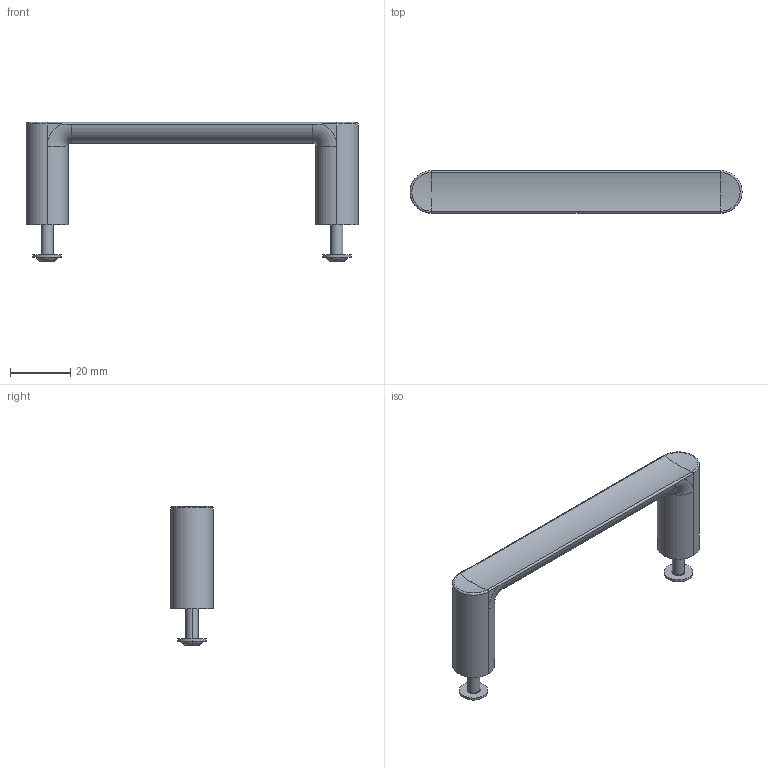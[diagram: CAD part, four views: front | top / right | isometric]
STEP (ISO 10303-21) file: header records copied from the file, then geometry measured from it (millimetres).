
FILE_DESCRIPTION((''),'2;1');
FILE_NAME('48740--00_SUB01_ASM','2026-10-13T14:31:39',('simi1'),(''),'CREO PARAMETRIC BY PTC INC, 2022244','CREO PARAMETRIC BY PTC INC, 2022244','');
FILE_SCHEMA(('CONFIG_CONTROL_DESIGN'));
Length unit declared in the file: millimetre
Products named in the file (3): 46755--; 4674900; 48740--00_SUB01_ASM
Assembly tree (3 placements, depth 2):
  48740--00_SUB01_ASM
    46755--
    4674900  x2
Bounding box: 110 x 14 x 46.06 mm (x, y, z)
Volume: 16464.5 mm3; surface area: 7901.4 mm2
Topology: 3 solids, 3 shells, 108 faces, 272 edges, 168 vertices
Faces by surface type: cylinder 44, cone 28, plane 14, torus 12, bspline 8, sphere 2
Entity records: 2501 total; most frequent: CARTESIAN_POINT 842, DIRECTION 334, ORIENTED_EDGE 330, EDGE_CURVE 165, AXIS2_PLACEMENT_3D 143, VERTEX_POINT 104, EDGE_LOOP 75, CIRCLE 71
